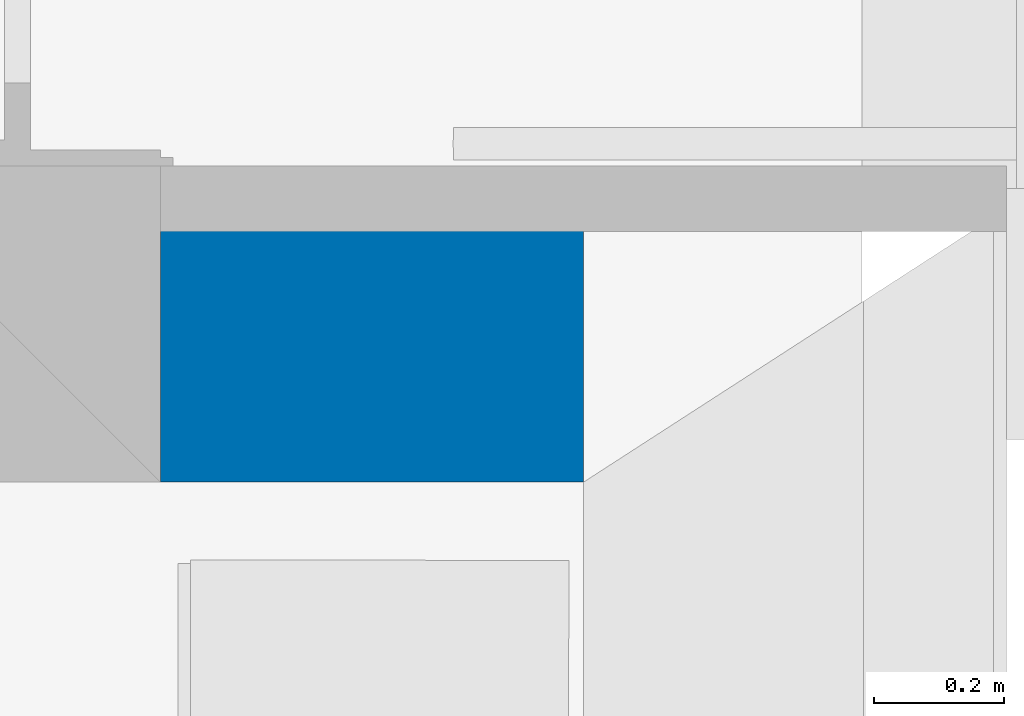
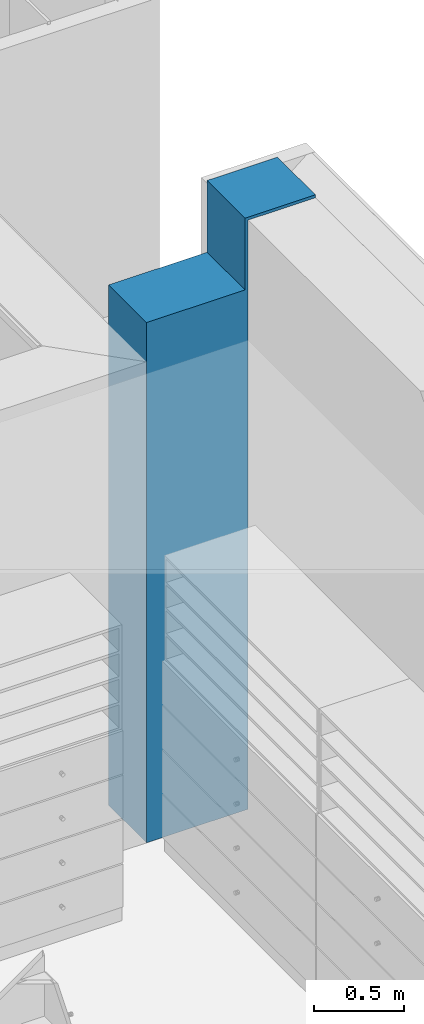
# One storey, part 73 of 194: 1 wall.
"""IFC2X3 building model written with IfcOpenShell, lengths in millimetres."""

import ifcopenshell
import ifcopenshell.guid

model = None  # the IFC model being written
_history = None  # IfcOwnerHistory: only IFC2X3 demands one
_inside = {}  # id of a spatial element -> (the spatial element, [elements in it])
_under = {}  # id of a project, library or spatial element -> (it, [spatial elements below it])
_declared = {}  # id of a project -> (the project, [libraries it declares])
_typed = {}  # id of a type object -> (the type object, [elements of that type])
_made_of = {}  # id of a material, layer set ... -> (it, [elements and type objects made of it])


def new_model(schema):
    """Start an empty IFC model of exactly this schema.

    Asked for "IFC4X3", IfcOpenShell would pick the latest addendum, in which some entities
    have other attributes; the version numbers below select the first issue.
    IFC2X3 requires an IfcOwnerHistory on every rooted entity: one is made here for all.
    """
    global model, _history
    if schema == "IFC4X3":
        model = ifcopenshell.file(schema_version=(4, 3, 0, 0))
    else:
        model = ifcopenshell.file(schema=schema)
    _inside.clear()
    _under.clear()
    _declared.clear()
    _typed.clear()
    _made_of.clear()
    _history = None
    if model.schema == "IFC2X3":
        org = make("IfcOrganization", Name="unknown")
        user = make(
            "IfcPersonAndOrganization",
            ThePerson=make("IfcPerson", FamilyName="unknown"),
            TheOrganization=org,
        )
        app = make(
            "IfcApplication",
            ApplicationDeveloper=org,
            Version="unknown",
            ApplicationFullName="unknown",
            ApplicationIdentifier="unknown",
        )
        _history = make(
            "IfcOwnerHistory",
            OwningUser=user,
            OwningApplication=app,
            ChangeAction="ADDED",
            CreationDate=0,
        )
    return model


def make(cls, **values):
    """One entity of the class cls with the attributes given. An attribute that is None is left unset."""
    return model.create_entity(
        cls, **{name: value for name, value in values.items() if value is not None}
    )


def entity(cls, *values):
    """Any entity or typed value of the class cls, its attributes in the order of the schema. None: left unset."""
    e = model.create_entity(cls)
    for i, value in enumerate(values):
        if value is not None:
            e[i] = value
    return e


def rooted(cls, **values):
    """An entity with a GlobalId (a new one), such as an element, a storey or a relation."""
    return make(cls, GlobalId=ifcopenshell.guid.new(), OwnerHistory=_history, **values)


def si_unit(unit_type, name, prefix=None):
    """IfcSIUnit, for example si_unit("LENGTHUNIT", "METRE", prefix="MILLI")."""
    return make("IfcSIUnit", UnitType=unit_type, Prefix=prefix, Name=name)


def converted_unit(unit_type, name, factor, base, dimensions=None, offset=None):
    """IfcConversionBasedUnit, such as the inch: factor (a typed value) times the base unit."""
    return make(
        "IfcConversionBasedUnit"
        if offset is None
        else "IfcConversionBasedUnitWithOffset",
        ConversionOffset=offset,
        Dimensions=None
        if dimensions is None
        else entity("IfcDimensionalExponents", *dimensions),
        UnitType=unit_type,
        Name=name,
        ConversionFactor=make(
            "IfcMeasureWithUnit", ValueComponent=factor, UnitComponent=base
        ),
    )


def derived_unit(unit_type, elements):
    """IfcDerivedUnit: a product of units, each with its exponent."""
    return make(
        "IfcDerivedUnit",
        Elements=[
            make("IfcDerivedUnitElement", Unit=unit, Exponent=power)
            for unit, power in elements
        ],
        UnitType=unit_type,
    )


def money_unit(currency):
    """IfcMonetaryUnit."""
    return make("IfcMonetaryUnit", Currency=currency)


def assignment(units):
    """IfcUnitAssignment: the units of a project."""
    return None if units is None else make("IfcUnitAssignment", Units=units)


def point(xyz):
    """IfcCartesianPoint."""
    return None if xyz is None else make("IfcCartesianPoint", Coordinates=xyz)


def direction(xyz):
    """IfcDirection."""
    return None if xyz is None else make("IfcDirection", DirectionRatios=xyz)


def frame(location, z_axis=None, x_axis=None):
    """IfcAxis2Placement3D, a coordinate frame: its origin and axes. An axis left out is left unset."""
    return make(
        "IfcAxis2Placement3D",
        Location=point(location),
        Axis=direction(z_axis),
        RefDirection=direction(x_axis),
    )


def origin_with_axes():
    """The frame at (0, 0, 0) with the z axis (0, 0, 1) and the x axis (1, 0, 0) written out."""
    return frame((0.0, 0.0, 0.0), z_axis=(0.0, 0.0, 1.0), x_axis=(1.0, 0.0, 0.0))


def place(relative_to, where):
    """IfcLocalPlacement: puts the frame where relative to a parent placement (None: the world)."""
    return make(
        "IfcLocalPlacement", PlacementRelTo=relative_to, RelativePlacement=where
    )


def context(
    kind, dimensions, precision=None, world=None, true_north=None, identifier=None
):
    """IfcGeometricRepresentationContext, for example the 3D "Model" context."""
    return make(
        "IfcGeometricRepresentationContext",
        ContextIdentifier=identifier,
        ContextType=kind,
        CoordinateSpaceDimension=dimensions,
        Precision=precision,
        WorldCoordinateSystem=world,
        TrueNorth=true_north,
    )


def subcontext(parent, identifier, kind, view, scale=None):
    """IfcGeometricRepresentationSubContext, for example "Body" below "Model"."""
    return make(
        "IfcGeometricRepresentationSubContext",
        ContextIdentifier=identifier,
        ContextType=kind,
        ParentContext=parent,
        TargetScale=scale,
        TargetView=view,
    )


def project(units=None, contexts=None):
    """IfcProject with its units and contexts."""
    return rooted(
        "IfcProject",
        Name="project",
        RepresentationContexts=contexts,
        UnitsInContext=assignment(units),
    )


def spatial(cls, under=None, at=None, **own):
    """A site, building, storey or space (cls), placed at a placement, below another one or the project."""
    s = rooted(cls, ObjectPlacement=at, **own)
    if under is not None:
        _under.setdefault(under.id(), (under, []))[1].append(s)
    return s


def polyline(points):
    """IfcPolyline through the points."""
    return make("IfcPolyline", Points=[point(p) for p in points])


def outline(outer, holes=None, kind="AREA"):
    """IfcArbitraryClosedProfileDef: a profile drawn as a closed curve; with holes, ...WithVoids."""
    if holes is None:
        return make("IfcArbitraryClosedProfileDef", ProfileType=kind, OuterCurve=outer)
    return make(
        "IfcArbitraryProfileDefWithVoids",
        ProfileType=kind,
        OuterCurve=outer,
        InnerCurves=holes,
    )


def extrude(swept, where, along, depth):
    """IfcExtrudedAreaSolid: the profile swept, set in the frame where, extruded along a direction by depth."""
    return make(
        "IfcExtrudedAreaSolid",
        SweptArea=swept,
        Position=where,
        ExtrudedDirection=direction(along),
        Depth=depth,
    )


def boolean(op, a, b):
    """IfcBooleanResult of two solids."""
    return make("IfcBooleanResult", Operator=op, FirstOperand=a, SecondOperand=b)


def faces_of(points, faces, orient=None, outer=None):
    """IfcFace entities. A face is a list of loops; a loop is a list of indices into points, from 0.

    orient and outer hold one flag for each loop. By default every Orientation is true, the
    first loop of a face is its IfcFaceOuterBound and the others are IfcFaceBound.
    """
    made = []
    for i, loops in enumerate(faces):
        bounds = []
        for j, loop in enumerate(loops):
            is_outer = j == 0 if outer is None else outer[i][j]
            bounds.append(
                make(
                    "IfcFaceOuterBound" if is_outer else "IfcFaceBound",
                    Bound=make("IfcPolyLoop", Polygon=[points[k] for k in loop]),
                    Orientation=True if orient is None else orient[i][j],
                )
            )
        made.append(make("IfcFace", Bounds=bounds))
    return made


def faceted_brep(points, faces, orient=None, outer=None, voids=None):
    """IfcFacetedBrep: a solid bounded by flat faces; with voids (closed shells), ...WithVoids."""
    shared = [point(p) for p in points]
    hull = make("IfcClosedShell", CfsFaces=faces_of(shared, faces, orient, outer))
    if voids is None:
        return make("IfcFacetedBrep", Outer=hull)
    return make(
        "IfcFacetedBrepWithVoids",
        Outer=hull,
        Voids=[
            make(cls, CfsFaces=faces_of(shared, fs, o, b)) for cls, fs, o, b in voids
        ],
    )


def shape(context_of_items, identifier, shape_type, items):
    """IfcShapeRepresentation: the items that make up one representation, for example the "Body"."""
    return make(
        "IfcShapeRepresentation",
        ContextOfItems=context_of_items,
        RepresentationIdentifier=identifier,
        RepresentationType=shape_type,
        Items=items,
    )


def material(Name=None, Category=None):
    """IfcMaterial."""
    return make("IfcMaterial", Name=Name, Category=Category)


def made_of(thing, what):
    """Note that an element or type object is made of a material, layer set ...; save() writes the relation."""
    if what is not None:
        _made_of.setdefault(what.id(), (what, []))[1].append(thing)
    return thing


def type_object(cls, material=None, **own):
    """A type object (cls), such as IfcWallType, which elements share."""
    return made_of(rooted(cls, **own), material)


def element(
    cls,
    number,
    at=None,
    inside=None,
    cuts=None,
    type_object=None,
    material=None,
    context=None,
    identifier="Body",
    shape_type=None,
    held_by="IfcProductDefinitionShape",
    body=None,
    shapes=None,
    **own,
):
    """One element of the class cls, such as IfcWall. Its Tag is "e" and its number.

    at: its placement. inside: the storey or other place that contains it. cuts: it is an
    opening in that element (IfcRelVoidsElement). A single representation is given by context,
    identifier, shape_type and body (its items); several are given by shapes. held_by: the class
    of the entity that holds the representations. save() writes the other relations.
    """
    e = rooted(cls, Tag="e%d" % number, ObjectPlacement=at, **own)
    if body is not None:
        shapes = [shape(context, identifier, shape_type, body)]
    if shapes is not None:
        e.Representation = make(held_by, Representations=shapes)
    if inside is not None:
        _inside.setdefault(inside.id(), (inside, []))[1].append(e)
    if cuts is not None:
        rooted(
            "IfcRelVoidsElement", RelatingBuildingElement=cuts, RelatedOpeningElement=e
        )
    if type_object is not None:
        _typed.setdefault(type_object.id(), (type_object, []))[1].append(e)
    return made_of(e, material)


def aggregate(whole, parts):
    """IfcRelAggregates: a whole, such as a stair, and the parts it consists of."""
    return rooted("IfcRelAggregates", RelatingObject=whole, RelatedObjects=parts)


def save(model, path):
    """Write the relations noted so far, then the file.

    IfcRelAggregates (storeys below a building ...), IfcRelContainedInSpatialStructure (elements
    in a storey), IfcRelDefinesByType, IfcRelAssociatesMaterial and IfcRelDeclares: one each for
    every whole, place, type object, material and project.
    """
    for whole, parts in _under.values():
        aggregate(whole, parts)
    for where, things in _inside.values():
        rooted(
            "IfcRelContainedInSpatialStructure",
            RelatedElements=things,
            RelatingStructure=where,
        )
    for kind, things in _typed.values():
        rooted("IfcRelDefinesByType", RelatedObjects=things, RelatingType=kind)
    for what, things in _made_of.values():
        rooted("IfcRelAssociatesMaterial", RelatedObjects=things, RelatingMaterial=what)
    for by, libraries in _declared.values():
        rooted("IfcRelDeclares", RelatingContext=by, RelatedDefinitions=libraries)
    model.write(path)


model = new_model("IFC2X3")

# Units and contexts
model_context = context("Model", 3, precision=1e-05, world=origin_with_axes(), true_north=direction((0.0, 1.0)))
body_context = subcontext(model_context, "Body", "Model", "MODEL_VIEW")
ifc_project = project(units=[si_unit("LENGTHUNIT", "METRE", prefix="MILLI"), si_unit("AREAUNIT", "SQUARE_METRE"), si_unit("VOLUMEUNIT", "CUBIC_METRE"), converted_unit("PLANEANGLEUNIT", "DEGREE", entity("IfcPlaneAngleMeasure", 0.0174532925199), si_unit("PLANEANGLEUNIT", "RADIAN"), dimensions=[0, 0, 0, 0, 0, 0, 0]), si_unit("SOLIDANGLEUNIT", "STERADIAN"), money_unit("EUR"), converted_unit("TIMEUNIT", "Year", entity("IfcTimeMeasure", 31556926.0), si_unit("TIMEUNIT", "SECOND"), dimensions=[0, 0, 1, 0, 0, 0, 0]), si_unit("MASSUNIT", "GRAM", prefix="KILO"), si_unit("THERMODYNAMICTEMPERATUREUNIT", "DEGREE_CELSIUS"), si_unit("LUMINOUSINTENSITYUNIT", "LUMEN"), si_unit("ENERGYUNIT", "JOULE", prefix="MEGA"), derived_unit("THERMALCONDUCTANCEUNIT", [(si_unit("POWERUNIT", "WATT"), 1), (si_unit("LENGTHUNIT", "METRE"), -1), (si_unit("THERMODYNAMICTEMPERATUREUNIT", "KELVIN"), -1)]), derived_unit("SPECIFICHEATCAPACITYUNIT", [(si_unit("ENERGYUNIT", "JOULE"), 1), (si_unit("MASSUNIT", "GRAM", prefix="KILO"), -1), (si_unit("THERMODYNAMICTEMPERATUREUNIT", "KELVIN"), -1)]), derived_unit("MASSDENSITYUNIT", [(si_unit("MASSUNIT", "GRAM", prefix="KILO"), 1), (si_unit("VOLUMEUNIT", "CUBIC_METRE"), -1)])], contexts=[model_context])

# Site, building, storey
site_placement = place(None, origin_with_axes())
site = spatial("IfcSite", under=ifc_project, at=site_placement, Name="Site", CompositionType="ELEMENT")
building_placement = place(site_placement, origin_with_axes())
building = spatial("IfcBuilding", under=site, at=building_placement, Name="Building", CompositionType="ELEMENT")
storey_placement = place(building_placement, frame((0.0, 0.0, 3000.0), z_axis=(0.0, 0.0, 1.0), x_axis=(1.0, 0.0, 0.0)))
storey = spatial("IfcBuildingStorey", under=building, at=storey_placement, Name="2 KORRUS", CompositionType="ELEMENT", Elevation=3000.0)

# Wall
ifc_material = material(Name="Kivi -Ol.Olev Konstruktsioon")
wall_type = type_object("IfcWallType", Name="SW - 022", PredefinedType="NOTDEFINED")
wall_placement = place(storey_placement, frame((42543.7335859, 65210.0283559, 0.0), z_axis=(0.0, 0.0, 1.0), x_axis=(1.0, 0.0, 0.0)))
element("IfcWall", 1, at=wall_placement, inside=storey, type_object=wall_type, material=ifc_material, Name="ol.olev ss 420", context=body_context, shape_type="CSG", body=[
    boolean("DIFFERENCE", boolean("DIFFERENCE", extrude(outline(polyline([(0.0, 0.0), (1299.63370704, 0.0), (1299.63370704, 420.0), (0.0, 420.0), (0.0, 0.0)])), origin_with_axes(), (0.0, 0.0, 1.0), 4000.0), faceted_brep([(629.838206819, 0.0, 4000.0), (629.846411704, 420.0, 4000.0), (0.0, 420.0, 4000.0), (0.0, 0.0, 4000.0), (629.846411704, 419.999999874, 3515.0), (629.838206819, 0.0, 3515.0), (0.0, 420.0, 3515.0), (0.0, 0.0, 3515.0)], [[[0, 1, 2, 3]], [[4, 1, 0, 5]], [[4, 6, 2, 1]], [[6, 7, 3, 2]], [[5, 0, 3, 7]], [[6, 4, 5, 7]]])), faceted_brep([(649.454402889, 419.999999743, 3980.0), (1079.63368701, 419.999999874, 3980.0), (1079.63368701, 420.0, 4000.0), (1299.63370704, 420.0, 4000.0), (1299.63370704, 420.0, 0.0), (649.454402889, 419.999999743, 0.0), (649.633647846, -9.09494701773e-10, 3980.0), (1079.63368701, 0.0, 3980.0), (1079.63368701, 0.0, 4000.0), (1299.63370704, 0.0, 4000.0), (1299.63370704, 0.0, 0.0), (649.633647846, 0.0, 0.0)], [[[0, 1, 2, 3, 4, 5]], [[1, 0, 6, 7]], [[8, 2, 1, 7]], [[2, 8, 9, 3]], [[9, 10, 4, 3]], [[11, 5, 4, 10]], [[11, 6, 0, 5]], [[6, 11, 10, 9, 8, 7]]])),
])

save(model, "model.ifc")
